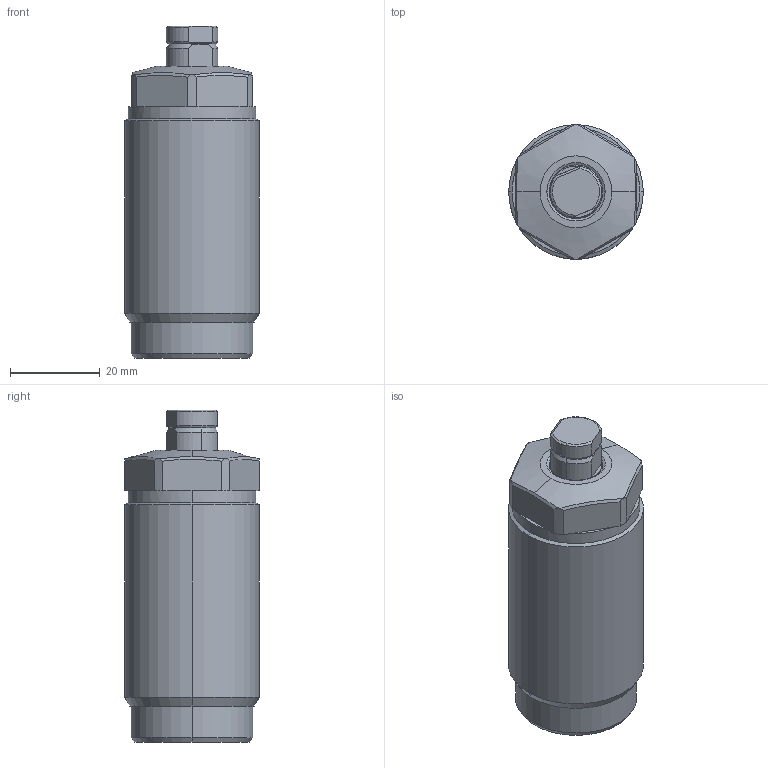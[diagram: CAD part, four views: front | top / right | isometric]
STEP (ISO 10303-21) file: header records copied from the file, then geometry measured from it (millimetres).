
FILE_DESCRIPTION (( 'STEP AP214' ), '1' );
FILE_NAME ('TW09-M301.STEP', '2020-08-06T04:05:51', ( '' ), ( '' ), 'SwSTEP 2.0', 'SolidWorks 2019', '' );
FILE_SCHEMA (( 'AUTOMOTIVE_DESIGN' ));
Length unit declared in the file: millimetre
Products named in the file (4): TW09-M301-BODY; TW09-M301; M30-PLUNGER; M30-PAD
Assembly tree (3 placements, depth 2):
  TW09-M301
    TW09-M301-BODY
    M30-PLUNGER
    M30-PAD
Bounding box: 30 x 30 x 74 mm (x, y, z)
Volume: 42831.7 mm3; surface area: 11162.2 mm2
Topology: 3 solids, 3 shells, 108 faces, 249 edges, 151 vertices
Faces by surface type: plane 40, cone 33, cylinder 29, bspline 6
Entity records: 3975 total; most frequent: CARTESIAN_POINT 1360, DIRECTION 519, ORIENTED_EDGE 494, EDGE_CURVE 247, AXIS2_PLACEMENT_3D 210, VERTEX_POINT 151, EDGE_LOOP 114, ADVANCED_FACE 108
